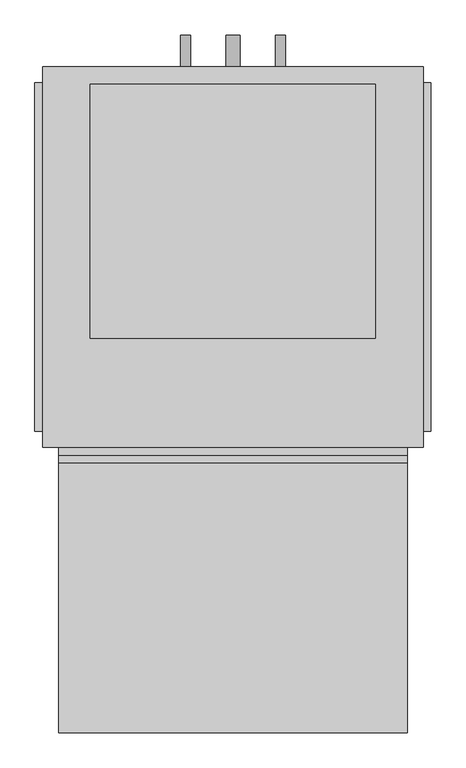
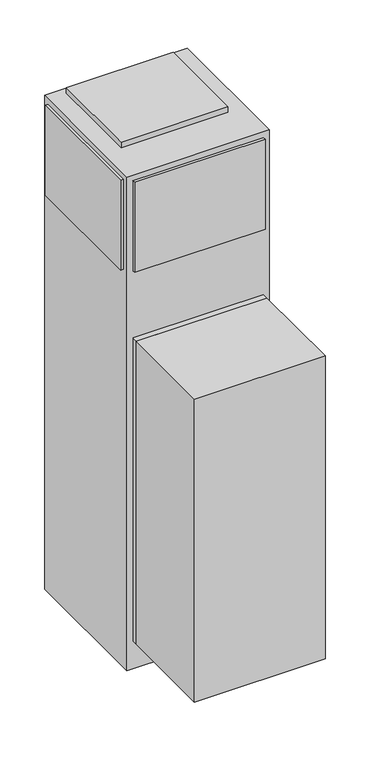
"""IFC4 building model written with IfcOpenShell, lengths in millimetres: proxy geometry, Concealed_Universal_Modular_Fan_Coil_Unit_-_MUY_-_IEC_-_2-Pipe_Cool-EHeat_-_NoRisers_2022 : Size 12 - 277v/60Hz/1Ph - 4 Row 8.0kW."""

from ifc_helpers import new_model, si_unit, point, frame, frame_2d, origin, origin_with_axes, place, context, project, spatial, polyline, circle_curve, trimmed, segment, composite_curve, outline, extrude, source, transform, mapped, element, save


def mechanical_equipment_4e6194b6(model_context):
    return source(origin(), model_context, "Body", "SweptSolid", [
        extrude(outline(polyline([(1356.1480703, 341.3868862), (1346.2, 373.5602728), (1488.3709244, 373.5602728), (1465.3489183, 341.3868862), (1356.1480703, 341.3868862)])), frame((0.0, -393.7, 0.0), z_axis=(0.0, 1.0, 0.0), x_axis=(0.0, 0.0, 1.0)), (0.0, 0.0, 1.0), 3.175),
        extrude(outline(polyline([(1435.1473557, 380.3186058), (1431.9449632, 406.4), (1461.1738042, 406.4), (1469.2382193, 380.3186058), (1435.1473557, 380.3186058)])), frame((0.0, -393.7, 0.0), z_axis=(0.0, 1.0, 0.0), x_axis=(0.0, 0.0, 1.0)), (0.0, 0.0, 1.0), 3.175),
        extrude(outline(polyline([(1383.2838288, 406.4), (1379.6183279, 380.3186058), (1346.2, 380.3186058), (1354.8342372, 406.4), (1383.2838288, 406.4)])), frame((0.0, -393.7, 0.0), z_axis=(0.0, 1.0, 0.0), x_axis=(0.0, 0.0, 1.0)), (0.0, 0.0, 1.0), 3.175),
        extrude(outline(polyline([(1422.5989903, 406.4), (1424.8808166, 380.3186058), (1388.9432681, 380.3186058), (1391.6845331, 406.4), (1422.5989903, 406.4)])), frame((0.0, -393.7, 0.0), z_axis=(0.0, 1.0, 0.0), x_axis=(0.0, 0.0, 1.0)), (0.0, 0.0, 1.0), 3.175),
        extrude(outline(polyline([(736.6, -390.525), (736.6, -822.325), (177.8, -822.325), (177.8, -390.525), (736.6, -390.525)])), frame((0.0, 0.0, 127.0), z_axis=(0.0, 0.0, 1.0), x_axis=(1.0, 0.0, 0.0)), (0.0, 0.0, 1.0), 1371.6),
        extrude(outline(composite_curve([segment(trimmed(circle_curve(frame_2d((990.6, 533.4)), 7.9375), [point((990.6, 525.4625))], [point((990.6, 541.3375))], False, "CARTESIAN"), True, "CONTINUOUS"), segment(trimmed(circle_curve(frame_2d((990.6, 533.4)), 7.9375), [point((990.6, 541.3375))], [point((990.6, 525.4625))], False, "CARTESIAN"), True, "CONTINUOUS")], self_intersect=False)), frame((0.0, 244.475, 0.0), z_axis=(0.0, 1.0, 0.0), x_axis=(0.0, 0.0, 1.0)), (0.0, 0.0, 1.0), 50.8),
        extrude(outline(composite_curve([segment(trimmed(circle_curve(frame_2d((990.6, 381.0)), 7.9375), [point((990.6, 373.0625))], [point((990.6, 388.9375))], False, "CARTESIAN"), True, "CONTINUOUS"), segment(trimmed(circle_curve(frame_2d((990.6, 381.0)), 7.9375), [point((990.6, 388.9375))], [point((990.6, 373.0625))], False, "CARTESIAN"), True, "CONTINUOUS")], self_intersect=False)), frame((0.0, 244.475, 0.0), z_axis=(0.0, 1.0, 0.0), x_axis=(0.0, 0.0, 1.0)), (0.0, 0.0, 1.0), 50.8),
        extrude(outline(composite_curve([segment(trimmed(circle_curve(frame_2d((76.2, 457.2)), 11.1125), [point((76.2, 446.0875))], [point((76.2, 468.3125))], False, "CARTESIAN"), True, "CONTINUOUS"), segment(trimmed(circle_curve(frame_2d((76.2, 457.2)), 11.1125), [point((76.2, 468.3125))], [point((76.2, 446.0875))], False, "CARTESIAN"), True, "CONTINUOUS")], self_intersect=False)), frame((0.0, 244.475, 0.0), z_axis=(0.0, 1.0, 0.0), x_axis=(0.0, 0.0, 1.0)), (0.0, 0.0, 1.0), 50.8),
        extrude(outline(polyline([(685.8, 215.9), (685.8, -190.5), (228.6, -190.5), (228.6, 215.9), (685.8, 215.9)])), frame((0.0, 0.0, 2235.2), z_axis=(0.0, 0.0, 1.0), x_axis=(1.0, 0.0, 0.0)), (0.0, 0.0, 1.0), 25.4),
        extrude(outline(polyline([(139.7, -339.725), (139.7, 219.075), (152.4, 219.075), (152.4, -339.725), (139.7, -339.725)])), frame((0.0, 0.0, 1803.4), z_axis=(0.0, 0.0, 1.0), x_axis=(1.0, 0.0, 0.0)), (0.0, 0.0, 1.0), 406.4),
        extrude(outline(polyline([(774.7, 219.075), (774.7, -339.725), (762.0, -339.725), (762.0, 219.075), (774.7, 219.075)])), frame((0.0, 0.0, 1803.4), z_axis=(0.0, 0.0, 1.0), x_axis=(1.0, 0.0, 0.0)), (0.0, 0.0, 1.0), 406.4),
        extrude(outline(polyline([(736.6, -377.825), (177.8, -377.825), (177.8, -365.125), (736.6, -365.125), (736.6, -377.825)])), frame((0.0, 0.0, 1803.4), z_axis=(0.0, 0.0, 1.0), x_axis=(1.0, 0.0, 0.0)), (0.0, 0.0, 1.0), 406.4),
        extrude(outline(polyline([(736.6, -390.525), (177.8, -390.525), (177.8, -365.125), (736.6, -365.125), (736.6, -390.525)])), frame((0.0, 0.0, 127.0), z_axis=(0.0, 0.0, 1.0), x_axis=(1.0, 0.0, 0.0)), (0.0, 0.0, 1.0), 1371.6),
        extrude(outline(polyline([(762.0, 244.475), (762.0, -365.125), (152.4, -365.125), (152.4, 244.475), (762.0, 244.475)])), origin_with_axes(), (0.0, 0.0, 1.0), 2235.2),
    ])


if __name__ == "__main__":
    model = new_model("IFC4")
    model_context = context("Model", 3, world=origin())
    ifc_project = project(units=[si_unit("LENGTHUNIT", "METRE", prefix="MILLI")], contexts=[model_context])
    site = spatial("IfcSite", under=ifc_project)
    building = spatial("IfcBuilding", under=site)
    placement = place(None, origin())
    mechanical_equipment_shape = mechanical_equipment_4e6194b6(model_context)
    element("IfcBuildingElementProxy", 1, Name="Concealed_Universal_Modular_Fan_Coil_Unit_-_MUY_-_IEC_-_2-Pipe_Cool-EHeat_-_NoRisers_2022 : Size 12 - 277v/60Hz/1Ph - 4 Row 8.0kW", ObjectType="Concealed_Universal_Modular_Fan_Coil_Unit_-_MUY_-_IEC_-_2-Pipe_Cool-EHeat_-_NoRisers_2022 : Size 12 - 277v/60Hz/1Ph - 4 Row 8.0kW", at=placement, inside=building, context=model_context, shape_type="MappedRepresentation", body=[
        mapped(mechanical_equipment_shape, transform((0.0, 0.0, 0.0), x_axis=(1.0, 0.0, 0.0), y_axis=(0.0, 1.0, 0.0), z_axis=(0.0, 0.0, 1.0))),
    ])
    save(model, "model.ifc")
